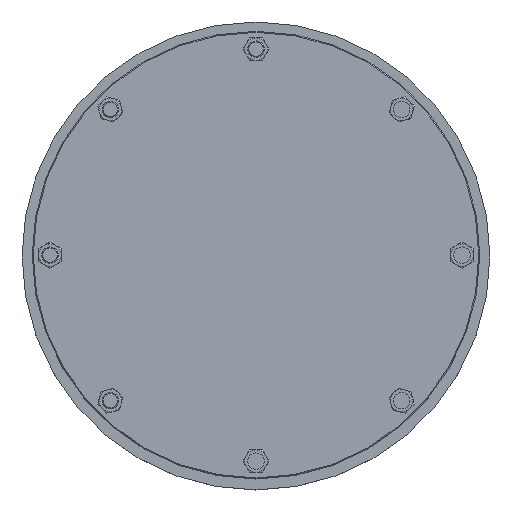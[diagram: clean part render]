
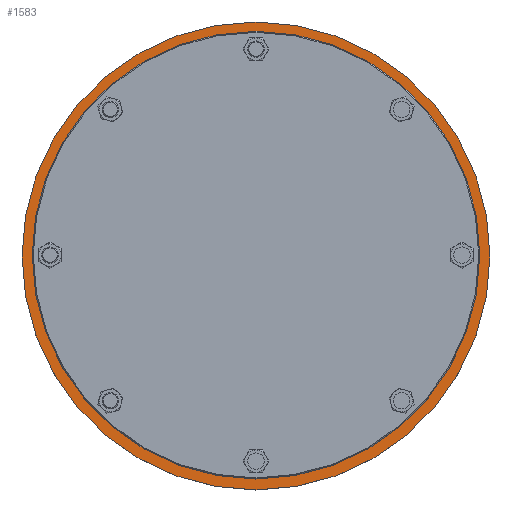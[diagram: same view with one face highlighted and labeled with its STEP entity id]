
A CAD part, top view. The second image highlights one B-rep face of the part: STEP entity #1583.
In plain terms, the highlighted planar face has unit normal (0, 0, 1).
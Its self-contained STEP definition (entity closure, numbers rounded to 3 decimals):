
#1583=ADVANCED_FACE('',(#6287,#6289,#6291,#6293,#6295,#6297,#6299,#6301,#6303,#6305,
#6307,#6309,#6311,#6313),#6315,.T.);
#6287=FACE_BOUND('',#6288,.T.);
#6288=EDGE_LOOP('',(#9971));
#6289=FACE_BOUND('',#6290,.T.);
#6290=EDGE_LOOP('',(#9972));
#6291=FACE_BOUND('',#6292,.T.);
#6292=EDGE_LOOP('',(#9973));
#6293=FACE_BOUND('',#6294,.T.);
#6294=EDGE_LOOP('',(#9974));
#6295=FACE_BOUND('',#6296,.T.);
#6296=EDGE_LOOP('',(#9975));
#6297=FACE_BOUND('',#6298,.T.);
#6298=EDGE_LOOP('',(#9976));
#6299=FACE_BOUND('',#6300,.T.);
#6300=EDGE_LOOP('',(#9977));
#6301=FACE_BOUND('',#6302,.T.);
#6302=EDGE_LOOP('',(#9978));
#6303=FACE_BOUND('',#6304,.T.);
#6304=EDGE_LOOP('',(#9979));
#6305=FACE_BOUND('',#6306,.T.);
#6306=EDGE_LOOP('',(#9980));
#6307=FACE_BOUND('',#6308,.T.);
#6308=EDGE_LOOP('',(#9981));
#6309=FACE_BOUND('',#6310,.T.);
#6310=EDGE_LOOP('',(#9982));
#6311=FACE_BOUND('',#6312,.T.);
#6312=EDGE_LOOP('',(#9983));
#6313=FACE_BOUND('',#6314,.T.);
#6314=EDGE_LOOP('',(#9984));
#6315=PLANE('',#6316);
#6316=AXIS2_PLACEMENT_3D('',#6317,#6318,#6319);
#6317=CARTESIAN_POINT('',(0.,0.,32.));
#6318=DIRECTION('',(0.,0.,1.));
#6319=DIRECTION('',(1.,0.,0.));
#9971=ORIENTED_EDGE('',*,*,#11937,.T.);
#9972=ORIENTED_EDGE('',*,*,#11887,.F.);
#9973=ORIENTED_EDGE('',*,*,#11938,.T.);
#9974=ORIENTED_EDGE('',*,*,#11939,.T.);
#9975=ORIENTED_EDGE('',*,*,#11940,.T.);
#9976=ORIENTED_EDGE('',*,*,#11941,.T.);
#9977=ORIENTED_EDGE('',*,*,#11942,.T.);
#9978=ORIENTED_EDGE('',*,*,#11943,.T.);
#9979=ORIENTED_EDGE('',*,*,#11944,.T.);
#9980=ORIENTED_EDGE('',*,*,#11945,.T.);
#9981=ORIENTED_EDGE('',*,*,#11946,.T.);
#9982=ORIENTED_EDGE('',*,*,#11947,.T.);
#9983=ORIENTED_EDGE('',*,*,#11948,.T.);
#9984=ORIENTED_EDGE('',*,*,#11949,.T.);
#11887=EDGE_CURVE('',#13267,#13267,#13268,.T.);
#11937=EDGE_CURVE('',#13319,#13319,#13320,.T.);
#11938=EDGE_CURVE('',#13321,#13321,#13322,.T.);
#11939=EDGE_CURVE('',#13323,#13323,#13324,.T.);
#11940=EDGE_CURVE('',#13325,#13325,#13326,.T.);
#11941=EDGE_CURVE('',#13327,#13327,#13328,.T.);
#11942=EDGE_CURVE('',#13329,#13329,#13330,.T.);
#11943=EDGE_CURVE('',#13331,#13331,#13332,.T.);
#11944=EDGE_CURVE('',#13333,#13333,#13334,.T.);
#11945=EDGE_CURVE('',#13335,#13335,#13336,.T.);
#11946=EDGE_CURVE('',#13337,#13337,#13338,.T.);
#11947=EDGE_CURVE('',#13339,#13339,#13340,.T.);
#11948=EDGE_CURVE('',#13341,#13341,#13342,.T.);
#11949=EDGE_CURVE('',#13343,#13343,#13344,.T.);
#13267=VERTEX_POINT('',#20572);
#13268=CIRCLE('',#20573,177.);
#13319=VERTEX_POINT('',#20774);
#13320=CIRCLE('',#20775,230.);
#13321=VERTEX_POINT('',#20779);
#13322=CIRCLE('',#20780,13.);
#13323=VERTEX_POINT('',#20784);
#13324=CIRCLE('',#20785,13.);
#13325=VERTEX_POINT('',#20789);
#13326=CIRCLE('',#20790,13.);
#13327=VERTEX_POINT('',#20794);
#13328=CIRCLE('',#20795,13.);
#13329=VERTEX_POINT('',#20799);
#13330=CIRCLE('',#20800,13.);
#13331=VERTEX_POINT('',#20804);
#13332=CIRCLE('',#20805,13.);
#13333=VERTEX_POINT('',#20809);
#13334=CIRCLE('',#20810,13.);
#13335=VERTEX_POINT('',#20814);
#13336=CIRCLE('',#20815,13.);
#13337=VERTEX_POINT('',#20819);
#13338=CIRCLE('',#20820,13.);
#13339=VERTEX_POINT('',#20824);
#13340=CIRCLE('',#20825,13.);
#13341=VERTEX_POINT('',#20829);
#13342=CIRCLE('',#20830,13.);
#13343=VERTEX_POINT('',#20834);
#13344=CIRCLE('',#20835,13.);
#20572=CARTESIAN_POINT('',(177.,0.,32.));
#20573=AXIS2_PLACEMENT_3D('',#20574,#20575,#20576);
#20574=CARTESIAN_POINT('',(0.,0.,32.));
#20575=DIRECTION('',(0.,0.,1.));
#20576=DIRECTION('',(1.,0.,0.));
#20774=CARTESIAN_POINT('',(230.,0.,32.));
#20775=AXIS2_PLACEMENT_3D('',#20776,#20777,#20778);
#20776=CARTESIAN_POINT('',(0.,0.,32.));
#20777=DIRECTION('',(0.,0.,1.));
#20778=DIRECTION('',(1.,0.,0.));
#20779=CARTESIAN_POINT('',(66.058,-198.015,32.));
#20780=AXIS2_PLACEMENT_3D('',#20781,#20782,#20783);
#20781=CARTESIAN_POINT('',(53.058,-198.015,32.));
#20782=DIRECTION('',(0.,0.,-1.));
#20783=DIRECTION('',(1.,0.,0.));
#20784=CARTESIAN_POINT('',(-41.8,-204.515,32.));
#20785=AXIS2_PLACEMENT_3D('',#20786,#20787,#20788);
#20786=CARTESIAN_POINT('',(-53.058,-198.015,32.));
#20787=DIRECTION('',(0.,0.,-1.));
#20788=DIRECTION('',(0.866,-0.5,0.));
#20789=CARTESIAN_POINT('',(-138.457,-156.215,32.));
#20790=AXIS2_PLACEMENT_3D('',#20791,#20792,#20793);
#20791=CARTESIAN_POINT('',(-144.957,-144.957,32.));
#20792=DIRECTION('',(0.,0.,-1.));
#20793=DIRECTION('',(0.5,-0.866,0.));
#20794=CARTESIAN_POINT('',(-198.015,-66.058,32.));
#20795=AXIS2_PLACEMENT_3D('',#20796,#20797,#20798);
#20796=CARTESIAN_POINT('',(-198.015,-53.058,32.));
#20797=DIRECTION('',(0.,0.,-1.));
#20798=DIRECTION('',(0.,-1.,0.));
#20799=CARTESIAN_POINT('',(-204.515,41.8,32.));
#20800=AXIS2_PLACEMENT_3D('',#20801,#20802,#20803);
#20801=CARTESIAN_POINT('',(-198.015,53.058,32.));
#20802=DIRECTION('',(0.,0.,-1.));
#20803=DIRECTION('',(-0.5,-0.866,0.));
#20804=CARTESIAN_POINT('',(-156.215,138.457,32.));
#20805=AXIS2_PLACEMENT_3D('',#20806,#20807,#20808);
#20806=CARTESIAN_POINT('',(-144.957,144.957,32.));
#20807=DIRECTION('',(0.,0.,-1.));
#20808=DIRECTION('',(-0.866,-0.5,0.));
#20809=CARTESIAN_POINT('',(-66.058,198.015,32.));
#20810=AXIS2_PLACEMENT_3D('',#20811,#20812,#20813);
#20811=CARTESIAN_POINT('',(-53.058,198.015,32.));
#20812=DIRECTION('',(0.,0.,-1.));
#20813=DIRECTION('',(-1.,0.,0.));
#20814=CARTESIAN_POINT('',(41.8,204.515,32.));
#20815=AXIS2_PLACEMENT_3D('',#20816,#20817,#20818);
#20816=CARTESIAN_POINT('',(53.058,198.015,32.));
#20817=DIRECTION('',(0.,0.,-1.));
#20818=DIRECTION('',(-0.866,0.5,0.));
#20819=CARTESIAN_POINT('',(138.457,156.215,32.));
#20820=AXIS2_PLACEMENT_3D('',#20821,#20822,#20823);
#20821=CARTESIAN_POINT('',(144.957,144.957,32.));
#20822=DIRECTION('',(0.,0.,-1.));
#20823=DIRECTION('',(-0.5,0.866,0.));
#20824=CARTESIAN_POINT('',(198.015,66.058,32.));
#20825=AXIS2_PLACEMENT_3D('',#20826,#20827,#20828);
#20826=CARTESIAN_POINT('',(198.015,53.058,32.));
#20827=DIRECTION('',(0.,0.,-1.));
#20828=DIRECTION('',(0.,1.,0.));
#20829=CARTESIAN_POINT('',(204.515,-41.8,32.));
#20830=AXIS2_PLACEMENT_3D('',#20831,#20832,#20833);
#20831=CARTESIAN_POINT('',(198.015,-53.058,32.));
#20832=DIRECTION('',(0.,0.,-1.));
#20833=DIRECTION('',(0.5,0.866,0.));
#20834=CARTESIAN_POINT('',(156.215,-138.457,32.));
#20835=AXIS2_PLACEMENT_3D('',#20836,#20837,#20838);
#20836=CARTESIAN_POINT('',(144.957,-144.957,32.));
#20837=DIRECTION('',(0.,0.,-1.));
#20838=DIRECTION('',(0.866,0.5,0.));
